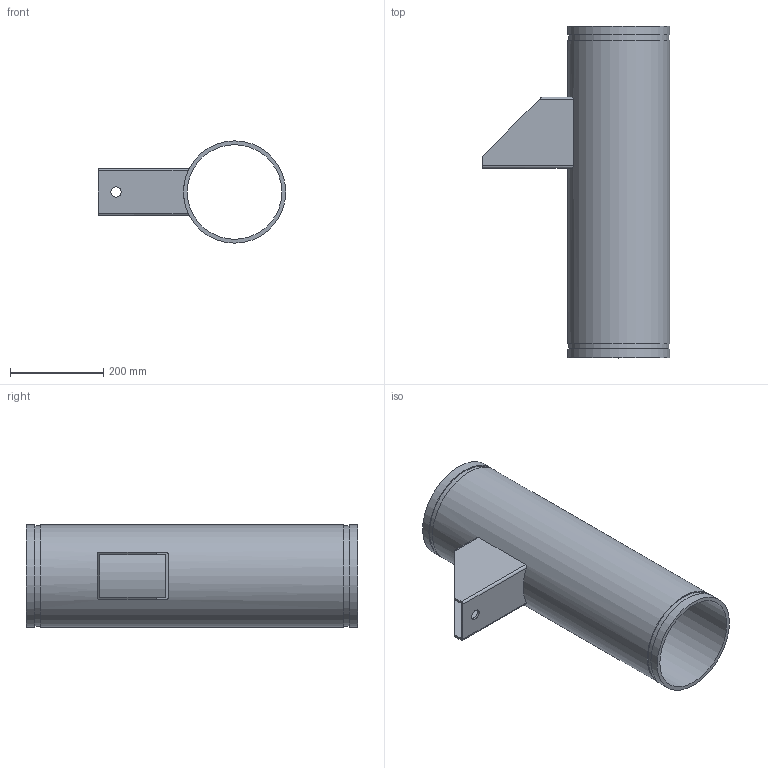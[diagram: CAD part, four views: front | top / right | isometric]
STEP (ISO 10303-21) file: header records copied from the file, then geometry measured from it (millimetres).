
FILE_DESCRIPTION(/* description */ ('VIC FLOOR MOUNTED RISER ANCHOR No A40'),/* implementation_level */ '2;1');
FILE_NAME(/* name */ 'C:\Files for Export\A40 & A40S-STEP-SWX\STEP\Victaulic_IPS_Riser Anchor_No A40 (OGS)\Victaulic_IPS_Riser Anchor_No A40 (OGS)_8 (200).stp',/* time_stamp */ '2024-06-07T07:36:31+02:00',/* author */ ('kkamble'),/* organization */ ('Victaulic'),/* preprocessor_version */ 'ST-DEVELOPER v18.1',/* originating_system */ 'Autodesk Inventor 2020',/* authorisation */ '');
FILE_SCHEMA (('AUTOMOTIVE_DESIGN { 1 0 10303 214 3 1 1 }'));
Length unit declared in the file: inch
Products named in the file (1): A40-08.0
Bounding box: 401.64 x 711.2 x 219.07 mm (x, y, z)
Volume: 4152301.1 mm3; surface area: 1089290.9 mm2
Topology: 1 solids, 1 shells, 28 faces, 78 edges, 56 vertices
Faces by surface type: plane 16, cylinder 12
Full cylindrical faces by diameter (mm): 22.225 x1, 202.692 x1, 214.401 x2, 219.075 x3
Entity records: 1041 total; most frequent: CARTESIAN_POINT 199, DIRECTION 168, ORIENTED_EDGE 156, EDGE_CURVE 78, AXIS2_PLACEMENT_3D 65, VERTEX_POINT 56, LINE 38, VECTOR 38
